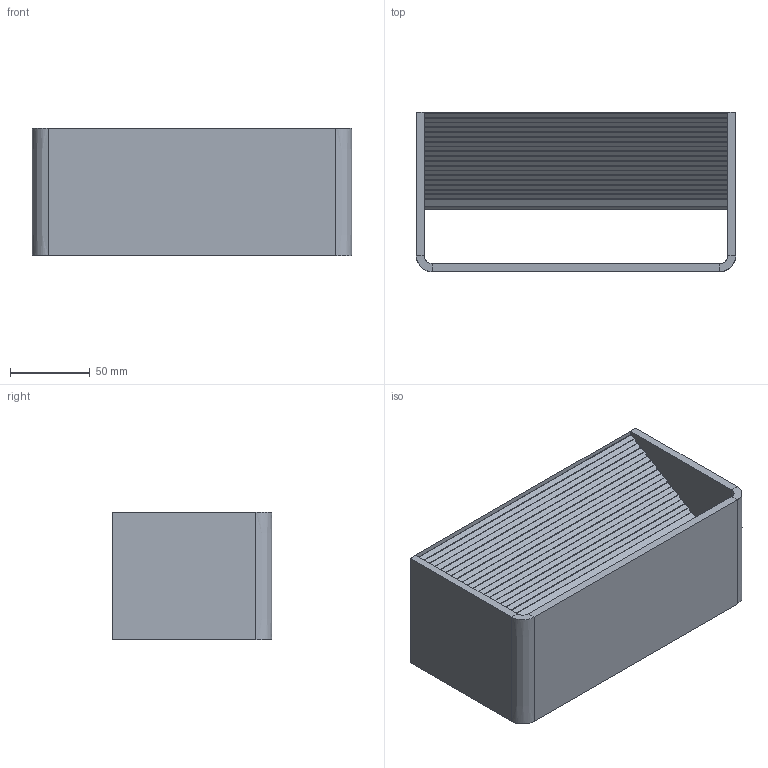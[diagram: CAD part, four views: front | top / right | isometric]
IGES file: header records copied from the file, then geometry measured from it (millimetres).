
Global section: file name: C:\Users\EQUIPO\Desktop\COLECCIONES ACB MODELADAS 3D OK\ICON\icon-16-3089-20-led (IGES).igs; native system: Rhinoceros ( Oct  8 2013 ); preprocessor: Trout Lake IGES 012 Oct  8 2013; date: 190207.091952; units: millimetre
Bounding box: 200 x 100 x 80 mm (x, y, z)
Surface area: 154126 mm2 (no closed solid volume)
Topology: 0 solids, 0 shells, 199 faces, 973 edges, 1014 vertices
Faces by surface type: bspline 199
